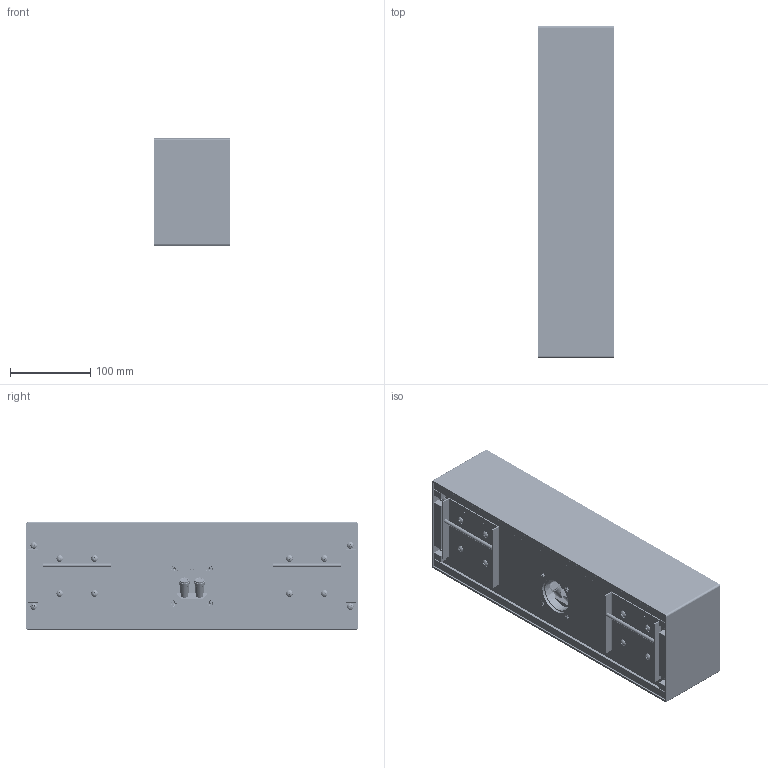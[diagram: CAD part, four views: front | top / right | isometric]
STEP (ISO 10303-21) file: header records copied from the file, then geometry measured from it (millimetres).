
FILE_DESCRIPTION (( 'STEP AP203' ), '1' );
FILE_NAME ('943100 RevA P3m-C Assembly.STEP', '2026-06-25T19:36:02', ( '' ), ( '' ), 'SwSTEP 2.0', 'SolidWorks 2026', '' );
FILE_SCHEMA (( 'CONFIG_CONTROL_DESIGN' ));
Length unit declared in the file: inch
Products named in the file (51): 3in SA Fiber Board Assy; 200003-1-1-solid1_1; PMD tweeter Front Plate flat sealing Rev H; 230042-1-solid1_1; RAF_H632X180C_97171A130; 943100 RevA P3m-C Assembly; P3m Back Box X5.2; 406500 RevD Bracket Onwall Speaker Portion; 91249A192_8-32x0.375 Black-Oxide 18-8 Stainless Steel Pan Head Phillips Screws_91249A192; Color Dot; P3m End Cap X5.2; Fiber Board RevH SLDPRT; Terminal Cup; 360078-1-solid1_1; 200003-3-2-solid1_1; PMD tweeter gasket Rev H; 260074-1-solid2_1; PMD tweeter housing ASSY Rev H; 110047-2-solid1_1; P3m Phase Plug Gasket X5 0.031 Poron_Compressed; P3m Front Plate Gasket X5.1 0.031 Poron_Compressed; 92141A009_#8 18-8 Stainless Steel Washer_92141A009; 370038-1-solid1_1; P3m Woofer Phase Plug X5 Rev5.2; Connector DC Jack Fiber Board; 100064-1-solid1_1; P3m Woofer Gasket X5 0.031 Poron_Compressed; RAF_H832X185C_97171A150; 121310 Screw 6-32x0.375 FH Philips Blk SS_96640A115; 120560 Screw 8-32x1_2 FH Phillips Blk Oxide SS_96640A126; P3m Front Plate X5.2; Color Dot_Black. >; P3m Perf Grill; 120260 Nut Nylock 8-32 Stainless Steel_91831A009; Terminal Post; 121670 Screw 8-32x1 FH Phillips Blk_96640A178; 310005-2-solid1_1; WF118WA07 Frame Filler X5; P3m Module Assembly X5.2; 161000 Terminal Cup 3 Inch OD Push Terminals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
Assembly tree (127 placements, depth 5):
  943100 RevA P3m-C Assembly
    P3m Back Box X5.2
    P3m Perf Grill
    P3m End Cap X5.2  x2
    406500 RevD Bracket Onwall Speaker Portion  x2
    P3m Module Assembly X5.2
      P3m Front Plate X5.2
      P3m Woofer Phase Plug X5 Rev5.2  x2
        P3m Woofer Phase Plug X5 Rev5.2
        RAF_H632X180C_97171A130
        RAF_H832X185C_97171A150
      P3m Front Plate Gasket X5.1 0.031 Poron_Compressed
      P3m Phase Plug Gasket X5 0.031 Poron_Compressed  x2
      P3m Woofer Gasket X5 0.031 Poron_Compressed  x2
      WF118WA07_08  x2
        220068 60 degree-1-solid1_1
        200003-4-1-solid1_1
        260074-1-solid2_1
        200003-2-1-solid1_1
        200003-1-1-solid1_1
        360078-1-solid1_1
        370038-1-solid1_1
        260074-1-solid1_1
        110047-2-solid1_1
        310005-2-solid1_1
        200003-3-2-solid1_1
        230042-1-solid1_1
        100064-1-solid1_1
      WF118WA07 Frame Filler X5  x4
      P3m Crossover X5.1  x2
      PMD tweeter housing ASSY Rev H
        PMD tweeter Front Plate flat sealing Rev H
        Sprial PMD housing Rev H
        3in SA Fiber Board Assy
          Fiber Board RevH SLDPRT
          Connector DC Jack Fiber Board
        91771A941_Passivated 18-8 Stainless Steel Phillips Flat Head Screw for tweet Rev H_91771A941  x3
        PMD tweeter gasket Rev H
      121310 Screw 6-32x0.375 FH Philips Blk SS_96640A115  x12
      121670 Screw 8-32x1 FH Phillips Blk_96640A178  x8
      120950 Nut KEP 8-32 Zinc_90675A009  x8
      92141A009_#8 18-8 Stainless Steel Washer_92141A009  x8
    161000 Terminal Cup 3 Inch OD Push Terminals
      Terminal Cup
      Terminal Post  x2
      Color Dot
      Color Dot_Black. >
    91249A192_8-32x0.375 Black-Oxide 18-8 Stainless Steel Pan Head Phillips Screws_91249A192  x16
    120260 Nut Nylock 8-32 Stainless Steel_91831A009  x4
    96640A127_8-32x0.625 Black-Oxide 18-8 Stainless Steel Phillips Flat Head Screws_96640A127  x4
    120560 Screw 8-32x1_2 FH Phillips Blk Oxide SS_96640A126  x8
Bounding box: 95.25 x 412.75 x 133.35 mm (x, y, z)
Volume: 1808940.8 mm3; surface area: 1148131 mm2
Topology: 152 solids, 152 shells, 10830 faces, 29505 edges, 19100 vertices
Faces by surface type: cylinder 3874, plane 2407, bspline 2118, cone 1804, torus 570, sphere 57
Entity records: 151584 total; most frequent: CARTESIAN_POINT 68056, ORIENTED_EDGE 17136, DIRECTION 14647, EDGE_CURVE 8568, AXIS2_PLACEMENT_3D 5955, VERTEX_POINT 5532, EDGE_LOOP 3708, ADVANCED_FACE 3217
